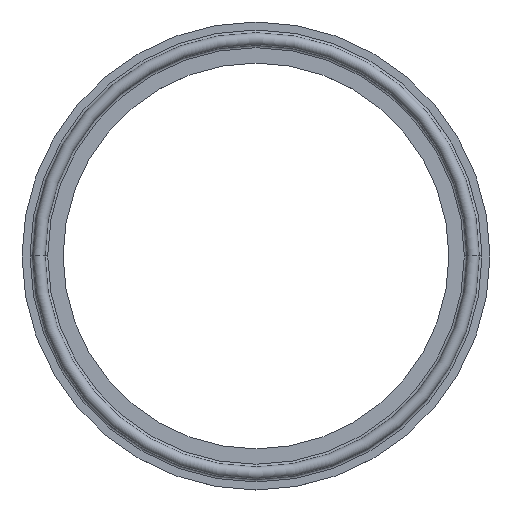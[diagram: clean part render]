
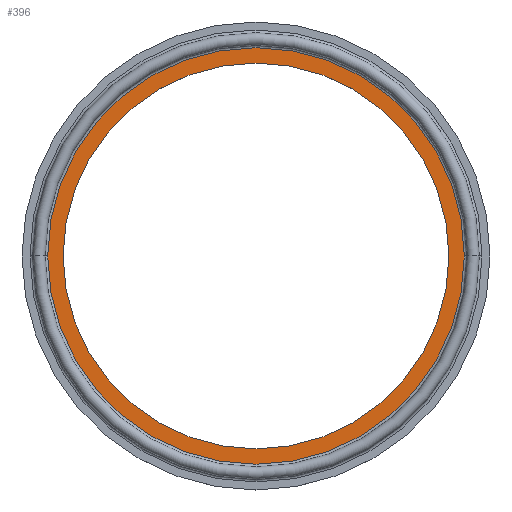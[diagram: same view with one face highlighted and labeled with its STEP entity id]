
A CAD part, top view. The second image highlights one B-rep face of the part: STEP entity #396.
In plain terms, the highlighted planar face has unit normal (0, 0, 1).
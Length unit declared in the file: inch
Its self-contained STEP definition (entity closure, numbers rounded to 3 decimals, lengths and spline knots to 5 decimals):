
#16 = CIRCLE ( 'NONE', #102, 1.4575 ) ;
#30 = EDGE_LOOP ( 'NONE', ( #146, #233 ) ) ;
#44 = CARTESIAN_POINT ( 'NONE',  ( 0., 0., 0. ) ) ;
#51 = AXIS2_PLACEMENT_3D ( 'NONE', #152, #230, #94 ) ;
#57 = CARTESIAN_POINT ( 'NONE',  ( 0., 0., 0. ) ) ;
#68 = DIRECTION ( 'NONE',  ( -1., 0., 0. ) ) ;
#73 = VERTEX_POINT ( 'NONE', #239 ) ;
#94 = DIRECTION ( 'NONE',  ( 1., 0., 0. ) ) ;
#102 = AXIS2_PLACEMENT_3D ( 'NONE', #57, #240, #106 ) ;
#106 = DIRECTION ( 'NONE',  ( 1., 0., 0. ) ) ;
#114 = PLANE ( 'NONE',  #408 ) ;
#130 = FACE_OUTER_BOUND ( 'NONE', #492, .T. ) ;
#146 = ORIENTED_EDGE ( 'NONE', *, *, #290, .F. ) ;
#152 = CARTESIAN_POINT ( 'NONE',  ( 0., 0., 0. ) ) ;
#162 = FACE_BOUND ( 'NONE', #30, .T. ) ;
#215 = CARTESIAN_POINT ( 'NONE',  ( 0., 0., 0. ) ) ;
#229 = DIRECTION ( 'NONE',  ( 1., 0., 0. ) ) ;
#230 = DIRECTION ( 'NONE',  ( 0., 0., 1. ) ) ;
#233 = ORIENTED_EDGE ( 'NONE', *, *, #338, .F. ) ;
#239 = CARTESIAN_POINT ( 'NONE',  ( 1.4575, 0., 0. ) ) ;
#240 = DIRECTION ( 'NONE',  ( 0., 0., 1. ) ) ;
#249 = DIRECTION ( 'NONE',  ( 0., 0., -1. ) ) ;
#272 = CARTESIAN_POINT ( 'NONE',  ( -1.4575, 0., 0. ) ) ;
#290 = EDGE_CURVE ( 'NONE', #73, #512, #583, .T. ) ;
#325 = CARTESIAN_POINT ( 'NONE',  ( -1.57362, 0., 0. ) ) ;
#338 = EDGE_CURVE ( 'NONE', #512, #73, #16, .T. ) ;
#357 = VERTEX_POINT ( 'NONE', #325 ) ;
#396 = ADVANCED_FACE ( 'NONE', ( #162, #130 ), #114, .F. ) ;
#398 = CARTESIAN_POINT ( 'NONE',  ( 1.57362, 0., 0. ) ) ;
#408 = AXIS2_PLACEMENT_3D ( 'NONE', #522, #249, #68 ) ;
#418 = VERTEX_POINT ( 'NONE', #398 ) ;
#425 = EDGE_CURVE ( 'NONE', #357, #418, #560, .T. ) ;
#436 = DIRECTION ( 'NONE',  ( 0., 0., 1. ) ) ;
#443 = DIRECTION ( 'NONE',  ( 1., 0., 0. ) ) ;
#492 = EDGE_LOOP ( 'NONE', ( #570, #528 ) ) ;
#493 = AXIS2_PLACEMENT_3D ( 'NONE', #44, #531, #229 ) ;
#498 = AXIS2_PLACEMENT_3D ( 'NONE', #215, #436, #443 ) ;
#512 = VERTEX_POINT ( 'NONE', #272 ) ;
#522 = CARTESIAN_POINT ( 'NONE',  ( 0., 1.4575, 0. ) ) ;
#528 = ORIENTED_EDGE ( 'NONE', *, *, #425, .T. ) ;
#531 = DIRECTION ( 'NONE',  ( 0., 0., 1. ) ) ;
#533 = CIRCLE ( 'NONE', #493, 1.57362 ) ;
#560 = CIRCLE ( 'NONE', #498, 1.57362 ) ;
#570 = ORIENTED_EDGE ( 'NONE', *, *, #572, .T. ) ;
#572 = EDGE_CURVE ( 'NONE', #418, #357, #533, .T. ) ;
#583 = CIRCLE ( 'NONE', #51, 1.4575 ) ;
